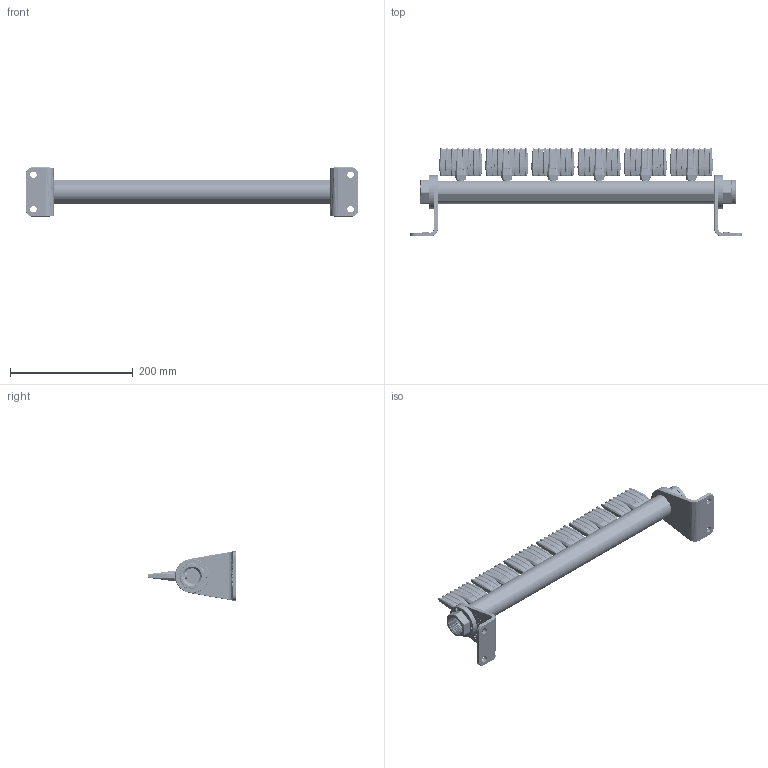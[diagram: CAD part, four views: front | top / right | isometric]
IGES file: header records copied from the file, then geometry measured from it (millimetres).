
Start section: SolidWorks IGES file using analytic representation for surfaces
Global section: file name: G:\SILVENT AB\ENGINEERING\Drawings\WEB CAD\CAD\386W-S.IGS; native system: SolidWorks 2021; preprocessor: SolidWorks 2021; author: p.jaasko; date: 241016.143457; units: millimetre
Bounding box: 540 x 144.5 x 80 mm (x, y, z)
Surface area: 226305.9 mm2 (no closed solid volume)
Topology: 0 solids, 0 shells, 8464 faces, 55782 edges, 55554 vertices
Faces by surface type: bspline 4970, revolution 3494
